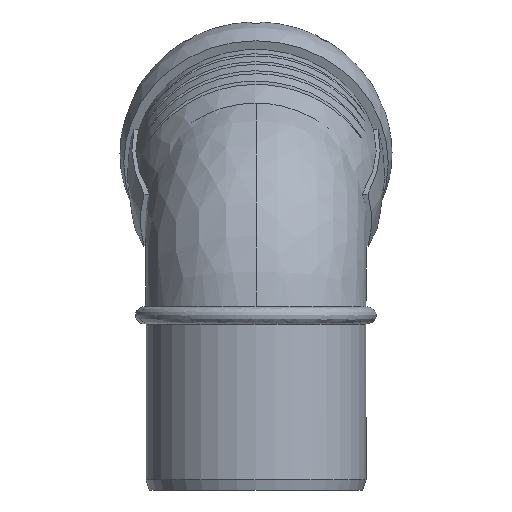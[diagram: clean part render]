
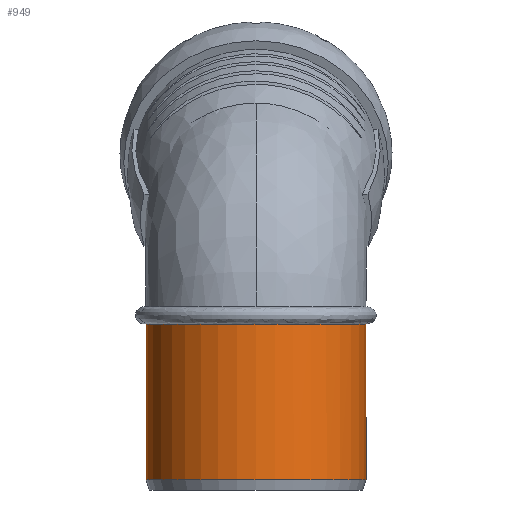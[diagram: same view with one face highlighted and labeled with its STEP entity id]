
A CAD part, left-side view. The second image highlights one B-rep face of the part: STEP entity #949.
In plain terms, the highlighted cylindrical face has radius 37.6 mm (diameter 75.2 mm), a full revolution.
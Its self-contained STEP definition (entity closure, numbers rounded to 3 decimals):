
#43=FACE_BOUND('',#208,.T.);
#70=CYLINDRICAL_SURFACE('',#1019,37.6);
#90=CIRCLE('',#1014,37.6);
#93=CIRCLE('',#1020,37.6);
#94=CIRCLE('',#1021,37.6);
#95=CIRCLE('',#1022,37.6);
#96=CIRCLE('',#1023,37.6);
#152=FACE_OUTER_BOUND('',#207,.T.);
#207=EDGE_LOOP('',(#624,#625,#626,#627));
#208=EDGE_LOOP('',(#628));
#373=VERTEX_POINT('',#1654);
#374=VERTEX_POINT('',#1673);
#376=VERTEX_POINT('',#1697);
#377=VERTEX_POINT('',#1699);
#378=VERTEX_POINT('',#1702);
#478=EDGE_CURVE('',#373,#374,#90,.T.);
#481=EDGE_CURVE('',#376,#373,#93,.T.);
#482=EDGE_CURVE('',#374,#377,#94,.T.);
#483=EDGE_CURVE('',#377,#376,#95,.T.);
#484=EDGE_CURVE('',#378,#378,#96,.T.);
#624=ORIENTED_EDGE('',*,*,#481,.T.);
#625=ORIENTED_EDGE('',*,*,#478,.T.);
#626=ORIENTED_EDGE('',*,*,#482,.T.);
#627=ORIENTED_EDGE('',*,*,#483,.T.);
#628=ORIENTED_EDGE('',*,*,#484,.F.);
#949=ADVANCED_FACE('',(#152,#43),#70,.T.);
#1014=AXIS2_PLACEMENT_3D('',#1690,#1123,#1124);
#1019=AXIS2_PLACEMENT_3D('',#1696,#1133,#1134);
#1020=AXIS2_PLACEMENT_3D('',#1698,#1135,#1136);
#1021=AXIS2_PLACEMENT_3D('',#1700,#1137,#1138);
#1022=AXIS2_PLACEMENT_3D('',#1701,#1139,#1140);
#1023=AXIS2_PLACEMENT_3D('',#1703,#1141,#1142);
#1123=DIRECTION('center_axis',(0.,0.,-1.));
#1124=DIRECTION('ref_axis',(1.,0.,0.));
#1133=DIRECTION('center_axis',(0.,0.,-1.));
#1134=DIRECTION('ref_axis',(0.,1.,0.));
#1135=DIRECTION('center_axis',(0.,0.,-1.));
#1136=DIRECTION('ref_axis',(1.,0.,0.));
#1137=DIRECTION('center_axis',(0.,0.,-1.));
#1138=DIRECTION('ref_axis',(1.,0.,0.));
#1139=DIRECTION('center_axis',(0.,0.,-1.));
#1140=DIRECTION('ref_axis',(1.,0.,0.));
#1141=DIRECTION('center_axis',(0.,0.,-1.));
#1142=DIRECTION('ref_axis',(1.,0.,0.));
#1654=CARTESIAN_POINT('',(5.986,37.12,56.7));
#1673=CARTESIAN_POINT('',(5.986,-37.12,56.7));
#1690=CARTESIAN_POINT('Origin',(0.,0.,56.7));
#1696=CARTESIAN_POINT('Origin',(0.,0.,30.1));
#1697=CARTESIAN_POINT('',(0.,37.6,56.7));
#1698=CARTESIAN_POINT('Origin',(0.,0.,56.7));
#1699=CARTESIAN_POINT('',(-37.6,0.,56.7));
#1700=CARTESIAN_POINT('Origin',(0.,0.,56.7));
#1701=CARTESIAN_POINT('Origin',(0.,0.,56.7));
#1702=CARTESIAN_POINT('',(0.,37.6,3.5));
#1703=CARTESIAN_POINT('Origin',(0.,0.,3.5));
